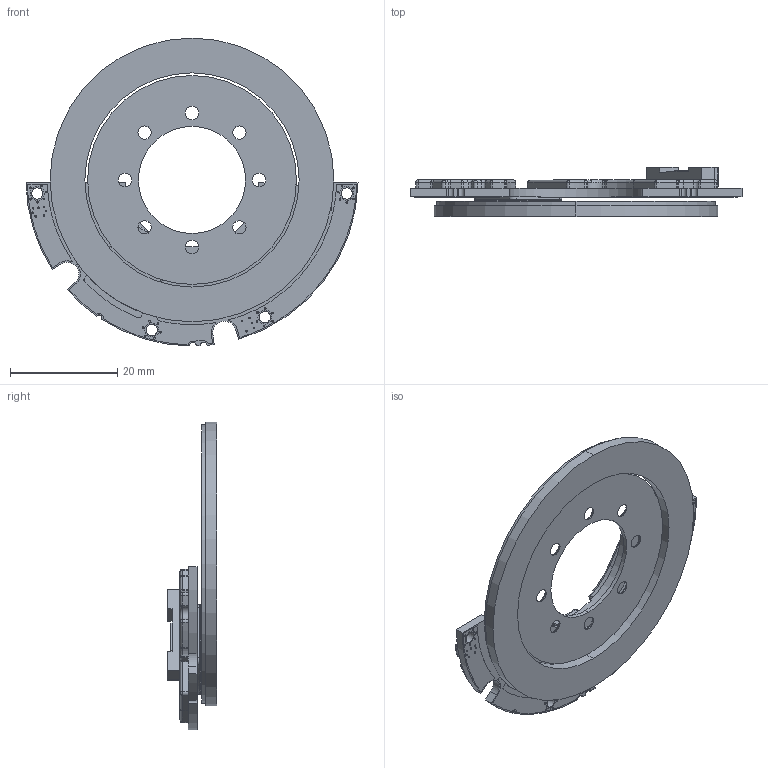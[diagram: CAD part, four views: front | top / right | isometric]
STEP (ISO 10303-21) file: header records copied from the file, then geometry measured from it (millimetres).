
FILE_DESCRIPTION (( 'STEP AP214' ), '1' );
FILE_NAME ('AksimDUAL.STEP', '2025-11-24T13:58:55', ( '' ), ( '' ), 'SwSTEP 2.0', 'SolidWorks 2024', '' );
FILE_SCHEMA (( 'AUTOMOTIVE_DESIGN' ));
Length unit declared in the file: millimetre
Products named in the file (4): MRA039xC020DSExxD02_00; AksIM-4_Dual_encoder_EncoLink_v00_WEB; MRA053xG040DSNxxD02_00; AksimDUAL
Assembly tree (3 placements, depth 2):
  AksimDUAL
    MRA053xG040DSNxxD02_00
    MRA039xC020DSExxD02_00
    AksIM-4_Dual_encoder_EncoLink_v00_WEB
Bounding box: 61.99 x 9.19 x 57.5 mm (x, y, z)
Volume: 6639.8 mm3; surface area: 8244.3 mm2
Topology: 4 solids, 4 shells, 1180 faces, 3092 edges, 2001 vertices
Faces by surface type: plane 785, cylinder 296, torus 31, sphere 31, bspline 21, cone 16
Entity records: 37019 total; most frequent: CARTESIAN_POINT 7419, ORIENTED_EDGE 6142, DIRECTION 6027, EDGE_CURVE 3071, VECTOR 2355, LINE 2355, VERTEX_POINT 1998, AXIS2_PLACEMENT_3D 1836
